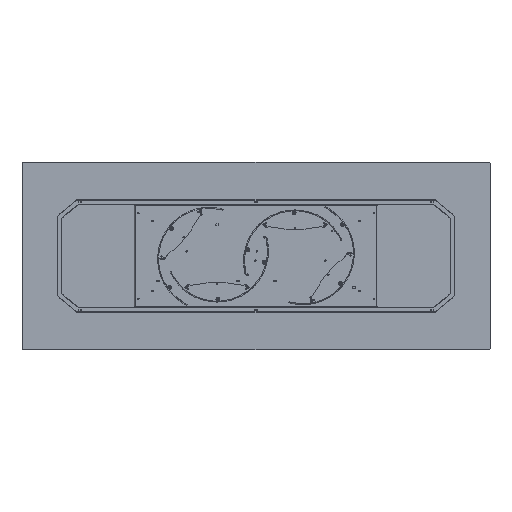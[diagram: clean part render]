
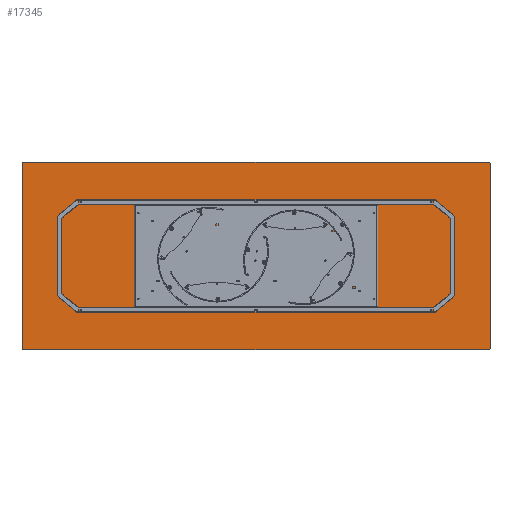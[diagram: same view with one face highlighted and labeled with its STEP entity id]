
A CAD part, front view. The second image highlights one B-rep face of the part: STEP entity #17345.
In plain terms, the highlighted planar face has unit normal (0, -1, 0).
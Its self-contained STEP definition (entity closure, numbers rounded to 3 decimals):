
#3 = VERTEX_POINT ( 'NONE', #4203 ) ;
#125 = DIRECTION ( 'NONE',  ( 0., 0., 1. ) ) ;
#918 = VERTEX_POINT ( 'NONE', #1323 ) ;
#923 = LINE ( 'NONE', #9309, #4637 ) ;
#1253 = CARTESIAN_POINT ( 'NONE',  ( -1495., 0., -595. ) ) ;
#1323 = CARTESIAN_POINT ( 'NONE',  ( 1495., 0., -600. ) ) ;
#1529 = VERTEX_POINT ( 'NONE', #21633 ) ;
#1581 = LINE ( 'NONE', #8063, #19503 ) ;
#1655 = DIRECTION ( 'NONE',  ( 0., -1., 0. ) ) ;
#2158 = AXIS2_PLACEMENT_3D ( 'NONE', #1253, #7862, #6400 ) ;
#2406 = EDGE_CURVE ( 'NONE', #5316, #11280, #1581, .T. ) ;
#3001 = ORIENTED_EDGE ( 'NONE', *, *, #2406, .F. ) ;
#3035 = DIRECTION ( 'NONE',  ( 0., 0., 1. ) ) ;
#3159 = CIRCLE ( 'NONE', #15141, 5. ) ;
#4096 = EDGE_CURVE ( 'NONE', #1529, #13810, #3159, .T. ) ;
#4203 = CARTESIAN_POINT ( 'NONE',  ( -1495., 0., -600. ) ) ;
#4209 = CARTESIAN_POINT ( 'NONE',  ( -1495., 0., 600. ) ) ;
#4232 = DIRECTION ( 'NONE',  ( 0., 0., 1. ) ) ;
#4637 = VECTOR ( 'NONE', #10770, 1000. ) ;
#5316 = VERTEX_POINT ( 'NONE', #7280 ) ;
#6383 = CARTESIAN_POINT ( 'NONE',  ( 0., 0., 0. ) ) ;
#6400 = DIRECTION ( 'NONE',  ( 0., 0., 1. ) ) ;
#6581 = DIRECTION ( 'NONE',  ( 0., 0., -1. ) ) ;
#6720 = FACE_OUTER_BOUND ( 'NONE', #14052, .T. ) ;
#6807 = ORIENTED_EDGE ( 'NONE', *, *, #8292, .F. ) ;
#7144 = CIRCLE ( 'NONE', #2158, 5. ) ;
#7280 = CARTESIAN_POINT ( 'NONE',  ( -1500., 0., -595. ) ) ;
#7355 = ORIENTED_EDGE ( 'NONE', *, *, #4096, .T. ) ;
#7862 = DIRECTION ( 'NONE',  ( 0., -1., 0. ) ) ;
#8063 = CARTESIAN_POINT ( 'NONE',  ( -1500., 0., -600. ) ) ;
#8227 = EDGE_CURVE ( 'NONE', #5316, #3, #7144, .T. ) ;
#8292 = EDGE_CURVE ( 'NONE', #918, #3, #9542, .T. ) ;
#8507 = DIRECTION ( 'NONE',  ( 0., 1., 0. ) ) ;
#8616 = DIRECTION ( 'NONE',  ( 0., -1., 0. ) ) ;
#9295 = CARTESIAN_POINT ( 'NONE',  ( 1495., 0., 600. ) ) ;
#9309 = CARTESIAN_POINT ( 'NONE',  ( -1500., 0., 600. ) ) ;
#9475 = ORIENTED_EDGE ( 'NONE', *, *, #8227, .T. ) ;
#9542 = LINE ( 'NONE', #13241, #16816 ) ;
#10770 = DIRECTION ( 'NONE',  ( 1., 0., 0. ) ) ;
#11280 = VERTEX_POINT ( 'NONE', #16891 ) ;
#12789 = ORIENTED_EDGE ( 'NONE', *, *, #14114, .T. ) ;
#13241 = CARTESIAN_POINT ( 'NONE',  ( -1500., 0., -600. ) ) ;
#13665 = CARTESIAN_POINT ( 'NONE',  ( -1495., 0., 595. ) ) ;
#13810 = VERTEX_POINT ( 'NONE', #9295 ) ;
#14052 = EDGE_LOOP ( 'NONE', ( #19586, #7355, #18630, #12789, #3001, #9475, #6807, #15840 ) ) ;
#14114 = EDGE_CURVE ( 'NONE', #18016, #11280, #19800, .T. ) ;
#14163 = CIRCLE ( 'NONE', #17022, 5. ) ;
#15141 = AXIS2_PLACEMENT_3D ( 'NONE', #21546, #21212, #4232 ) ;
#15840 = ORIENTED_EDGE ( 'NONE', *, *, #16396, .T. ) ;
#16396 = EDGE_CURVE ( 'NONE', #918, #19759, #14163, .T. ) ;
#16578 = AXIS2_PLACEMENT_3D ( 'NONE', #13665, #8616, #125 ) ;
#16694 = CARTESIAN_POINT ( 'NONE',  ( 1500., 0., -595. ) ) ;
#16816 = VECTOR ( 'NONE', #20036, 1000. ) ;
#16891 = CARTESIAN_POINT ( 'NONE',  ( -1500., 0., 595. ) ) ;
#16967 = CARTESIAN_POINT ( 'NONE',  ( 1495., 0., -595. ) ) ;
#17022 = AXIS2_PLACEMENT_3D ( 'NONE', #16967, #1655, #20741 ) ;
#17065 = VECTOR ( 'NONE', #6581, 1000. ) ;
#17345 = ADVANCED_FACE ( 'NONE', ( #6720 ), #18777, .F. ) ;
#17710 = EDGE_CURVE ( 'NONE', #1529, #19759, #21883, .T. ) ;
#18016 = VERTEX_POINT ( 'NONE', #4209 ) ;
#18630 = ORIENTED_EDGE ( 'NONE', *, *, #20030, .F. ) ;
#18777 = PLANE ( 'NONE',  #22031 ) ;
#19503 = VECTOR ( 'NONE', #20353, 1000. ) ;
#19586 = ORIENTED_EDGE ( 'NONE', *, *, #17710, .F. ) ;
#19759 = VERTEX_POINT ( 'NONE', #16694 ) ;
#19800 = CIRCLE ( 'NONE', #16578, 5. ) ;
#19987 = CARTESIAN_POINT ( 'NONE',  ( 1500., 0., -600. ) ) ;
#20030 = EDGE_CURVE ( 'NONE', #18016, #13810, #923, .T. ) ;
#20036 = DIRECTION ( 'NONE',  ( -1., 0., 0. ) ) ;
#20353 = DIRECTION ( 'NONE',  ( 0., 0., 1. ) ) ;
#20741 = DIRECTION ( 'NONE',  ( 0., 0., 1. ) ) ;
#21212 = DIRECTION ( 'NONE',  ( 0., -1., 0. ) ) ;
#21546 = CARTESIAN_POINT ( 'NONE',  ( 1495., 0., 595. ) ) ;
#21633 = CARTESIAN_POINT ( 'NONE',  ( 1500., 0., 595. ) ) ;
#21883 = LINE ( 'NONE', #19987, #17065 ) ;
#22031 = AXIS2_PLACEMENT_3D ( 'NONE', #6383, #8507, #3035 ) ;
